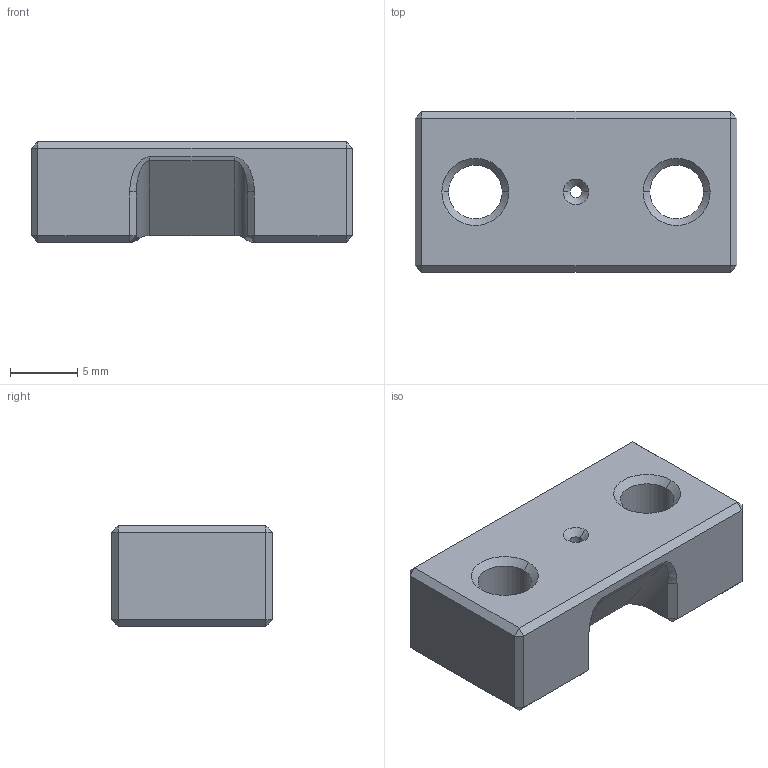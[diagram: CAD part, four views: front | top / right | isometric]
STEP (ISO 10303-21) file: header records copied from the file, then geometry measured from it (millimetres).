
FILE_DESCRIPTION (( 'STEP AP214' ), '1' );
FILE_NAME ('TRL-0047-A.STEP', '2021-06-25T20:29:26', ( '' ), ( '' ), 'SwSTEP 2.0', 'SolidWorks 2016', '' );
FILE_SCHEMA (( 'AUTOMOTIVE_DESIGN' ));
Length unit declared in the file: millimetre
Products named in the file (1): TRL-0047-A
Bounding box: 24 x 12 x 7.5 mm (x, y, z)
Volume: 1689.5 mm3; surface area: 1208.4 mm2
Topology: 1 solids, 1 shells, 89 faces, 200 edges, 114 vertices
Faces by surface type: plane 53, cone 14, cylinder 14, bspline 8
Entity records: 3020 total; most frequent: CARTESIAN_POINT 1122, ORIENTED_EDGE 400, DIRECTION 346, EDGE_CURVE 200, LINE 122, VECTOR 122, VERTEX_POINT 114, AXIS2_PLACEMENT_3D 112
